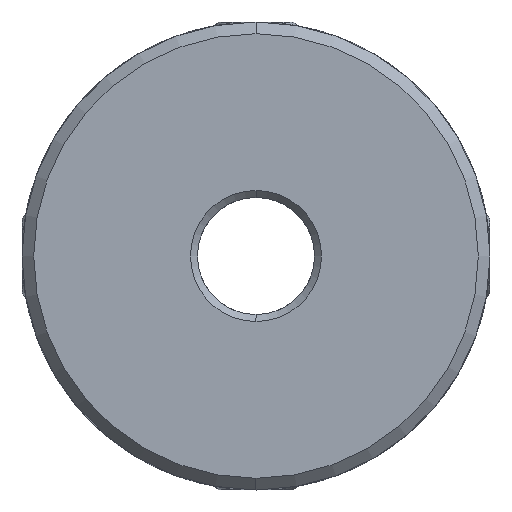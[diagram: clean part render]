
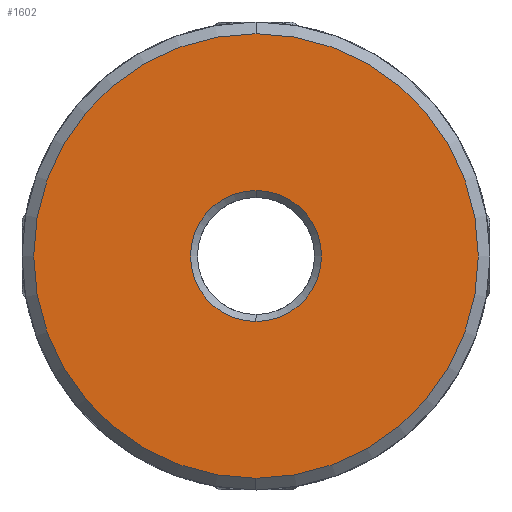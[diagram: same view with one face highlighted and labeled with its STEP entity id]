
A CAD part, front view. The second image highlights one B-rep face of the part: STEP entity #1602.
In plain terms, the highlighted planar face has unit normal (0, -1, 0).
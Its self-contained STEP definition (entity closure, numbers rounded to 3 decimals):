
#124 = CARTESIAN_POINT ( 'NONE',  ( 0., -23., -2.8 ) ) ;
#229 = DIRECTION ( 'NONE',  ( 0., 0., -1. ) ) ;
#516 = DIRECTION ( 'NONE',  ( 0., -1., 0. ) ) ;
#520 = PLANE ( 'NONE',  #2298 ) ;
#722 = DIRECTION ( 'NONE',  ( 0., 1., 0. ) ) ;
#749 = CIRCLE ( 'NONE', #5338, 9.5 ) ;
#753 = VERTEX_POINT ( 'NONE', #4165 ) ;
#815 = EDGE_CURVE ( 'NONE', #753, #4270, #749, .T. ) ;
#893 = CARTESIAN_POINT ( 'NONE',  ( 0., -23., 0. ) ) ;
#1464 = ORIENTED_EDGE ( 'NONE', *, *, #5832, .T. ) ;
#1602 = ADVANCED_FACE ( 'NONE', ( #2493, #6374 ), #520, .F. ) ;
#1929 = ORIENTED_EDGE ( 'NONE', *, *, #4972, .T. ) ;
#2057 = AXIS2_PLACEMENT_3D ( 'NONE', #7465, #722, #4523 ) ;
#2298 = AXIS2_PLACEMENT_3D ( 'NONE', #3503, #2733, #2796 ) ;
#2439 = CIRCLE ( 'NONE', #8763, 2.8 ) ;
#2493 = FACE_BOUND ( 'NONE', #8624, .T. ) ;
#2733 = DIRECTION ( 'NONE',  ( 0., 1., 0. ) ) ;
#2779 = CARTESIAN_POINT ( 'NONE',  ( 0., -23., 0. ) ) ;
#2796 = DIRECTION ( 'NONE',  ( 0., 0., -1. ) ) ;
#3136 = CIRCLE ( 'NONE', #2057, 2.8 ) ;
#3503 = CARTESIAN_POINT ( 'NONE',  ( 50., -23., -15.365 ) ) ;
#3972 = CARTESIAN_POINT ( 'NONE',  ( 0., -23., 0. ) ) ;
#4065 = ORIENTED_EDGE ( 'NONE', *, *, #815, .T. ) ;
#4165 = CARTESIAN_POINT ( 'NONE',  ( 0., -23., 9.5 ) ) ;
#4231 = EDGE_LOOP ( 'NONE', ( #1464, #4065 ) ) ;
#4270 = VERTEX_POINT ( 'NONE', #7262 ) ;
#4523 = DIRECTION ( 'NONE',  ( 0., 0., -1. ) ) ;
#4754 = DIRECTION ( 'NONE',  ( 0., 1., 0. ) ) ;
#4972 = EDGE_CURVE ( 'NONE', #7664, #6907, #3136, .T. ) ;
#5338 = AXIS2_PLACEMENT_3D ( 'NONE', #2779, #516, #9512 ) ;
#5761 = CIRCLE ( 'NONE', #6541, 9.5 ) ;
#5766 = DIRECTION ( 'NONE',  ( 0., -1., 0. ) ) ;
#5832 = EDGE_CURVE ( 'NONE', #4270, #753, #5761, .T. ) ;
#5876 = ORIENTED_EDGE ( 'NONE', *, *, #8429, .T. ) ;
#6030 = DIRECTION ( 'NONE',  ( 0., 0., -1. ) ) ;
#6374 = FACE_OUTER_BOUND ( 'NONE', #4231, .T. ) ;
#6541 = AXIS2_PLACEMENT_3D ( 'NONE', #893, #5766, #6030 ) ;
#6907 = VERTEX_POINT ( 'NONE', #124 ) ;
#7262 = CARTESIAN_POINT ( 'NONE',  ( 0., -23., -9.5 ) ) ;
#7465 = CARTESIAN_POINT ( 'NONE',  ( 0., -23., 0. ) ) ;
#7664 = VERTEX_POINT ( 'NONE', #8920 ) ;
#8429 = EDGE_CURVE ( 'NONE', #6907, #7664, #2439, .T. ) ;
#8624 = EDGE_LOOP ( 'NONE', ( #1929, #5876 ) ) ;
#8763 = AXIS2_PLACEMENT_3D ( 'NONE', #3972, #4754, #229 ) ;
#8920 = CARTESIAN_POINT ( 'NONE',  ( 0., -23., 2.8 ) ) ;
#9512 = DIRECTION ( 'NONE',  ( 0., 0., -1. ) ) ;
